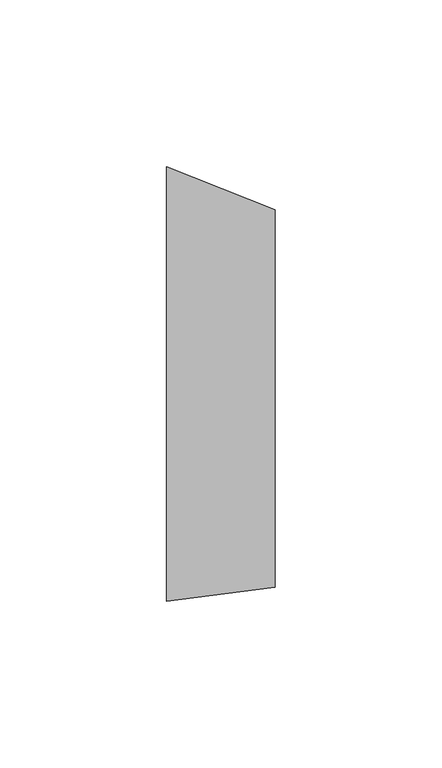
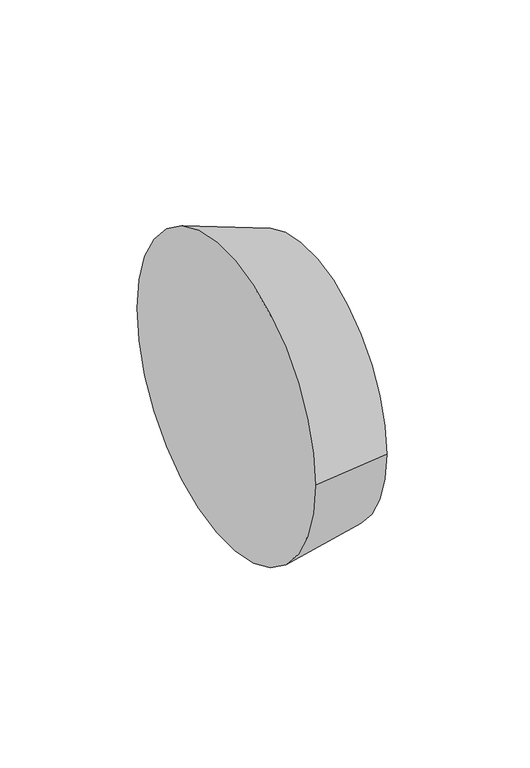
"""IFC4 building model written with IfcOpenShell, lengths in millimetres: pipe fitting geometry, M_Transición - Genérica : Estándar."""

import ifcopenshell
import ifcopenshell.guid

model = None  # the IFC model being written
_history = None  # IfcOwnerHistory: only IFC2X3 demands one
_inside = {}  # id of a spatial element -> (the spatial element, [elements in it])
_under = {}  # id of a project, library or spatial element -> (it, [spatial elements below it])
_declared = {}  # id of a project -> (the project, [libraries it declares])
_typed = {}  # id of a type object -> (the type object, [elements of that type])
_made_of = {}  # id of a material, layer set ... -> (it, [elements and type objects made of it])


def new_model(schema):
    """Start an empty IFC model of exactly this schema.

    Asked for "IFC4X3", IfcOpenShell would pick the latest addendum, in which some entities
    have other attributes; the version numbers below select the first issue.
    IFC2X3 requires an IfcOwnerHistory on every rooted entity: one is made here for all.
    """
    global model, _history
    if schema == "IFC4X3":
        model = ifcopenshell.file(schema_version=(4, 3, 0, 0))
    else:
        model = ifcopenshell.file(schema=schema)
    _inside.clear()
    _under.clear()
    _declared.clear()
    _typed.clear()
    _made_of.clear()
    _history = None
    if model.schema == "IFC2X3":
        org = make("IfcOrganization", Name="unknown")
        user = make(
            "IfcPersonAndOrganization",
            ThePerson=make("IfcPerson", FamilyName="unknown"),
            TheOrganization=org,
        )
        app = make(
            "IfcApplication",
            ApplicationDeveloper=org,
            Version="unknown",
            ApplicationFullName="unknown",
            ApplicationIdentifier="unknown",
        )
        _history = make(
            "IfcOwnerHistory",
            OwningUser=user,
            OwningApplication=app,
            ChangeAction="ADDED",
            CreationDate=0,
        )
    return model


def make(cls, **values):
    """One entity of the class cls with the attributes given. An attribute that is None is left unset."""
    return model.create_entity(
        cls, **{name: value for name, value in values.items() if value is not None}
    )


def rooted(cls, **values):
    """An entity with a GlobalId (a new one), such as an element, a storey or a relation."""
    return make(cls, GlobalId=ifcopenshell.guid.new(), OwnerHistory=_history, **values)


def si_unit(unit_type, name, prefix=None):
    """IfcSIUnit, for example si_unit("LENGTHUNIT", "METRE", prefix="MILLI")."""
    return make("IfcSIUnit", UnitType=unit_type, Prefix=prefix, Name=name)


def assignment(units):
    """IfcUnitAssignment: the units of a project."""
    return None if units is None else make("IfcUnitAssignment", Units=units)


def point(xyz):
    """IfcCartesianPoint."""
    return None if xyz is None else make("IfcCartesianPoint", Coordinates=xyz)


def direction(xyz):
    """IfcDirection."""
    return None if xyz is None else make("IfcDirection", DirectionRatios=xyz)


def frame(location, z_axis=None, x_axis=None):
    """IfcAxis2Placement3D, a coordinate frame: its origin and axes. An axis left out is left unset."""
    return make(
        "IfcAxis2Placement3D",
        Location=point(location),
        Axis=direction(z_axis),
        RefDirection=direction(x_axis),
    )


def origin():
    """The frame at (0, 0, 0) with its axes left unset."""
    return frame((0.0, 0.0, 0.0))


def place(relative_to, where):
    """IfcLocalPlacement: puts the frame where relative to a parent placement (None: the world)."""
    return make(
        "IfcLocalPlacement", PlacementRelTo=relative_to, RelativePlacement=where
    )


def context(
    kind, dimensions, precision=None, world=None, true_north=None, identifier=None
):
    """IfcGeometricRepresentationContext, for example the 3D "Model" context."""
    return make(
        "IfcGeometricRepresentationContext",
        ContextIdentifier=identifier,
        ContextType=kind,
        CoordinateSpaceDimension=dimensions,
        Precision=precision,
        WorldCoordinateSystem=world,
        TrueNorth=true_north,
    )


def project(units=None, contexts=None):
    """IfcProject with its units and contexts."""
    return rooted(
        "IfcProject",
        Name="project",
        RepresentationContexts=contexts,
        UnitsInContext=assignment(units),
    )


def spatial(cls, under=None, at=None, **own):
    """A site, building, storey or space (cls), placed at a placement, below another one or the project."""
    s = rooted(cls, ObjectPlacement=at, **own)
    if under is not None:
        _under.setdefault(under.id(), (under, []))[1].append(s)
    return s


def circle_curve(where, radius):
    """IfcCircle in the frame where."""
    return make("IfcCircle", Position=where, Radius=radius)


def shape(context_of_items, identifier, shape_type, items):
    """IfcShapeRepresentation: the items that make up one representation, for example the "Body"."""
    return make(
        "IfcShapeRepresentation",
        ContextOfItems=context_of_items,
        RepresentationIdentifier=identifier,
        RepresentationType=shape_type,
        Items=items,
    )


def source(mapping_origin, context_of_items, identifier, shape_type, items):
    """IfcRepresentationMap: a shape defined once, which mapped items show again and again."""
    return make(
        "IfcRepresentationMap",
        MappingOrigin=mapping_origin,
        MappedRepresentation=shape(context_of_items, identifier, shape_type, items),
    )


def transform(
    local_origin,
    x_axis=None,
    y_axis=None,
    z_axis=None,
    scale=None,
    scale2=None,
    scale3=None,
    uniform=True,
):
    """IfcCartesianTransformationOperator3D, or its non-uniform kind. x_axis, y_axis, z_axis: its Axis1, 2, 3."""
    if uniform:
        return make(
            "IfcCartesianTransformationOperator3D",
            Axis1=direction(x_axis),
            Axis2=direction(y_axis),
            LocalOrigin=point(local_origin),
            Scale=scale,
            Axis3=direction(z_axis),
        )
    return make(
        "IfcCartesianTransformationOperator3DnonUniform",
        Axis1=direction(x_axis),
        Axis2=direction(y_axis),
        LocalOrigin=point(local_origin),
        Scale=scale,
        Axis3=direction(z_axis),
        Scale2=scale2,
        Scale3=scale3,
    )


def mapped(mapping_source, mapping_target):
    """IfcMappedItem: shows the shape of a source again, moved by a transform."""
    return make(
        "IfcMappedItem", MappingSource=mapping_source, MappingTarget=mapping_target
    )


def made_of(thing, what):
    """Note that an element or type object is made of a material, layer set ...; save() writes the relation."""
    if what is not None:
        _made_of.setdefault(what.id(), (what, []))[1].append(thing)
    return thing


def element(
    cls,
    number,
    at=None,
    inside=None,
    cuts=None,
    type_object=None,
    material=None,
    context=None,
    identifier="Body",
    shape_type=None,
    held_by="IfcProductDefinitionShape",
    body=None,
    shapes=None,
    **own,
):
    """One element of the class cls, such as IfcWall. Its Tag is "e" and its number.

    at: its placement. inside: the storey or other place that contains it. cuts: it is an
    opening in that element (IfcRelVoidsElement). A single representation is given by context,
    identifier, shape_type and body (its items); several are given by shapes. held_by: the class
    of the entity that holds the representations. save() writes the other relations.
    """
    e = rooted(cls, Tag="e%d" % number, ObjectPlacement=at, **own)
    if body is not None:
        shapes = [shape(context, identifier, shape_type, body)]
    if shapes is not None:
        e.Representation = make(held_by, Representations=shapes)
    if inside is not None:
        _inside.setdefault(inside.id(), (inside, []))[1].append(e)
    if cuts is not None:
        rooted(
            "IfcRelVoidsElement", RelatingBuildingElement=cuts, RelatedOpeningElement=e
        )
    if type_object is not None:
        _typed.setdefault(type_object.id(), (type_object, []))[1].append(e)
    return made_of(e, material)


def aggregate(whole, parts):
    """IfcRelAggregates: a whole, such as a stair, and the parts it consists of."""
    return rooted("IfcRelAggregates", RelatingObject=whole, RelatedObjects=parts)


def save(model, path):
    """Write the relations noted so far, then the file.

    IfcRelAggregates (storeys below a building ...), IfcRelContainedInSpatialStructure (elements
    in a storey), IfcRelDefinesByType, IfcRelAssociatesMaterial and IfcRelDeclares: one each for
    every whole, place, type object, material and project.
    """
    for whole, parts in _under.values():
        aggregate(whole, parts)
    for where, things in _inside.values():
        rooted(
            "IfcRelContainedInSpatialStructure",
            RelatedElements=things,
            RelatingStructure=where,
        )
    for kind, things in _typed.values():
        rooted("IfcRelDefinesByType", RelatedObjects=things, RelatingType=kind)
    for what, things in _made_of.values():
        rooted("IfcRelAssociatesMaterial", RelatedObjects=things, RelatingMaterial=what)
    for by, libraries in _declared.values():
        rooted("IfcRelDeclares", RelatingContext=by, RelatedDefinitions=libraries)
    model.write(path)


def plane_surface(at):
    """IfcPlane: the flat surface through the origin of the frame at, square to its z axis."""
    return make("IfcPlane", Position=at)


def spline_surface(u_degree, v_degree, points, u_multiplicities, v_multiplicities, u_knots, v_knots, weights=None):
    """IfcBSplineSurfaceWithKnots; with weights, IfcRationalBSplineSurfaceWithKnots. points: one row for each step in u."""
    own = dict(
        UDegree=u_degree,
        VDegree=v_degree,
        ControlPointsList=[[point(p) for p in row] for row in points],
        SurfaceForm="UNSPECIFIED",
        UClosed=False,
        VClosed=False,
        SelfIntersect=False,
        UMultiplicities=u_multiplicities,
        VMultiplicities=v_multiplicities,
        UKnots=u_knots,
        VKnots=v_knots,
        KnotSpec="UNSPECIFIED",
    )
    if weights is None:
        return make("IfcBSplineSurfaceWithKnots", **own)
    return make("IfcRationalBSplineSurfaceWithKnots", WeightsData=weights, **own)


def advanced_brep(points, edges, surfaces, faces):
    """IfcAdvancedBrep: a solid bounded by faces that lie on surfaces and meet in shared edges.

    An edge is (start, end): straight between two places in points (the first is 0);
    or (start, end, curve); or (start, end, curve, False) where it runs against its curve.
    A face is (place in surfaces, loops), or (place, loops, False) where it looks against
    its surface's normal. A loop lists edges by number (the first is 1), with a minus sign
    where the edge is run from its end to its start. The first loop is the outer one.
    """
    corners = [point(p) for p in points]
    vertices = [make("IfcVertexPoint", VertexGeometry=c) for c in corners]
    made = []
    for start, end, *more in edges:
        made.append(
            make(
                "IfcEdgeCurve",
                EdgeStart=vertices[start],
                EdgeEnd=vertices[end],
                EdgeGeometry=more[0] if more else make("IfcPolyline", Points=[corners[start], corners[end]]),
                SameSense=more[1] if len(more) > 1 else True,
            )
        )
    hull = []
    for where, loops, *sense in faces:
        bounds = []
        for j, loop in enumerate(loops):
            ring = [make("IfcOrientedEdge", EdgeElement=made[abs(k) - 1], Orientation=k > 0) for k in loop]
            bounds.append(
                make(
                    "IfcFaceOuterBound" if j == 0 else "IfcFaceBound",
                    Bound=make("IfcEdgeLoop", EdgeList=ring),
                    Orientation=True,
                )
            )
        hull.append(make("IfcAdvancedFace", Bounds=bounds, FaceSurface=surfaces[where], SameSense=sense[0] if sense else True))
    return make("IfcAdvancedBrep", Outer=make("IfcClosedShell", CfsFaces=hull))


def pipe_fitting_3241df74(model_context):
    return source(origin(), model_context, "Body", "AdvancedBrep", [
        advanced_brep(
        [(32.54375, 52.2763855, 0.0), (32.54375, -60.8986145, 0.0), (0.0, 65.0875, 0.0), (0.0, -65.0875, 0.0)],
        [
            (0, 1, circle_curve(frame((32.54375, -4.3111145, 0.0), z_axis=(1.0, 0.0, 0.0), x_axis=(0.0, -1.0, 0.0)), 56.5875)),
            (1, 0, circle_curve(frame((32.54375, -4.3111145, 0.0), z_axis=(1.0, 0.0, 0.0), x_axis=(0.0, -1.0, 0.0)), 56.5875)),
            (2, 3, circle_curve(frame((0.0, 0.0, 0.0), z_axis=(-1.0, 0.0, 0.0), x_axis=(0.0, -1.0, 0.0)), 65.0875)),
            (3, 2, circle_curve(frame((0.0, 0.0, 0.0), z_axis=(-1.0, 0.0, 0.0), x_axis=(0.0, -1.0, 0.0)), 65.0875)),
            (2, 0),
            (1, 3),
        ],
        [
            plane_surface(frame((32.54375, -4.3111145, 0.0), z_axis=(1.0, 0.0, 0.0), x_axis=(0.0, 0.0, -1.0))),
            plane_surface(frame((0.0, 0.0, 0.0), z_axis=(-1.0, 0.0, 0.0), x_axis=(0.0, 0.0, -1.0))),
            spline_surface(1, 2, [[(0.0, 65.0875, 0.0), (0.0, 65.0875, -65.0875), (0.0, 0.0, -65.0875), (0.0, -65.0875, -65.0875), (0.0, -65.0875, 0.0)], [(32.54375, 52.2763855, 0.0), (32.54375, 52.2763855, -56.587500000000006), (32.54375, -4.3111145, -56.587500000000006), (32.54375, -60.89861450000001, -56.587500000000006), (32.54375, -60.8986145, 0.0)]], [2, 2], [3, 2, 3], [0.0, 1.0], [0.0, 1.0, 2.0], weights=[[1.0, 0.7071067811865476, 1.0, 0.7071067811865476, 1.0], [1.0, 0.7071067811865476, 1.0, 0.7071067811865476, 1.0]]),
            spline_surface(1, 2, [[(0.0, -65.0875, 0.0), (0.0, -65.0875, 65.0875), (0.0, 0.0, 65.0875), (0.0, 65.0875, 65.0875), (0.0, 65.0875, 0.0)], [(32.54375, -60.8986145, 0.0), (32.54375, -60.8986145, 56.5875), (32.54375, -4.3111145, 56.5875), (32.54375, 52.276385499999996, 56.5875), (32.54375, 52.2763855, 0.0)]], [2, 2], [3, 2, 3], [0.0, 1.0], [0.0, 1.0, 2.0], weights=[[1.0, 0.7071067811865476, 1.0, 0.7071067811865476, 1.0], [1.0, 0.7071067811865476, 1.0, 0.7071067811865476, 1.0]]),
        ],
        [
            (0, [[1, 2]]),
            (1, [[3, 4]]),
            (2, [[5, -2, 6, -3]]),
            (3, [[-6, -1, -5, -4]]),
        ],
    ),
    ])


if __name__ == "__main__":
    model = new_model("IFC4")
    model_context = context("Model", 3, world=origin())
    ifc_project = project(units=[si_unit("LENGTHUNIT", "METRE", prefix="MILLI")], contexts=[model_context])
    site = spatial("IfcSite", under=ifc_project)
    building = spatial("IfcBuilding", under=site)
    placement = place(None, origin())
    pipe_fitting_shape = pipe_fitting_3241df74(model_context)
    element("IfcPipeFitting", 1, ObjectType="M_Transición - Genérica : Estándar", at=placement, inside=building, context=model_context, shape_type="MappedRepresentation", body=[
        mapped(pipe_fitting_shape, transform((0.0, 0.0, 0.0), x_axis=(1.0, 0.0, 0.0), y_axis=(0.0, 1.0, 0.0), z_axis=(0.0, 0.0, 1.0))),
    ])
    save(model, "model.ifc")
